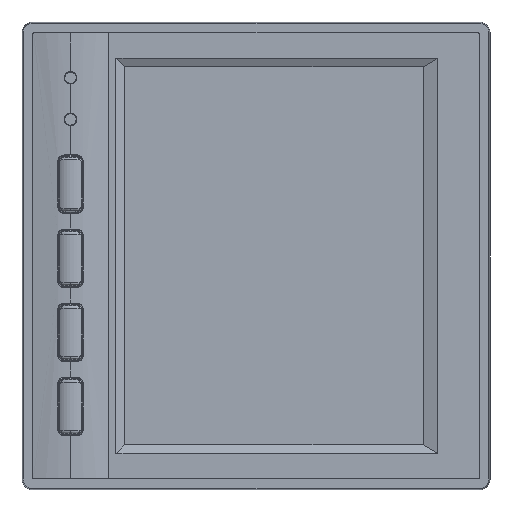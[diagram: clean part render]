
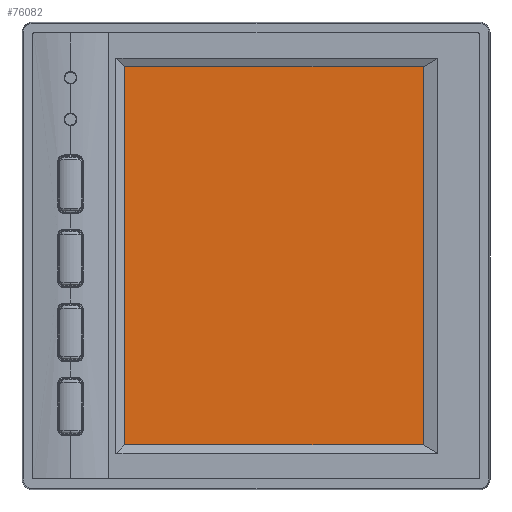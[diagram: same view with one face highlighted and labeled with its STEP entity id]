
A CAD part, top view. The second image highlights one B-rep face of the part: STEP entity #76082.
In plain terms, the highlighted planar face has unit normal (0, 0, 1).
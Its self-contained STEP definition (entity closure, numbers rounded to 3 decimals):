
#5327 = LINE ( 'NONE', #105950, #73641 ) ;
#7286 = CARTESIAN_POINT ( 'NONE',  ( 0., 0., 0.799 ) ) ;
#10023 = ORIENTED_EDGE ( 'NONE', *, *, #107645, .T. ) ;
#13013 = EDGE_CURVE ( 'NONE', #104053, #101705, #52010, .T. ) ;
#13239 = DIRECTION ( 'NONE',  ( 0., -1., 0. ) ) ;
#17834 = CARTESIAN_POINT ( 'NONE',  ( -25.78, -39.001, 0.799 ) ) ;
#23328 = DIRECTION ( 'NONE',  ( -1., 0., 0. ) ) ;
#25983 = DIRECTION ( 'NONE',  ( 0., 0., 1. ) ) ;
#31390 = LINE ( 'NONE', #17834, #59004 ) ;
#35483 = CARTESIAN_POINT ( 'NONE',  ( -25.78, -39.001, 0.799 ) ) ;
#45351 = CARTESIAN_POINT ( 'NONE',  ( -25.78, 39.699, 0.799 ) ) ;
#47400 = ORIENTED_EDGE ( 'NONE', *, *, #93468, .T. ) ;
#51324 = CARTESIAN_POINT ( 'NONE',  ( 36.67, -39.001, 0.799 ) ) ;
#52010 = LINE ( 'NONE', #73129, #98552 ) ;
#59004 = VECTOR ( 'NONE', #82860, 1000. ) ;
#60823 = VERTEX_POINT ( 'NONE', #35483 ) ;
#63031 = ORIENTED_EDGE ( 'NONE', *, *, #13013, .T. ) ;
#63776 = DIRECTION ( 'NONE',  ( 0., 1., 0. ) ) ;
#67750 = ORIENTED_EDGE ( 'NONE', *, *, #67846, .T. ) ;
#67846 = EDGE_CURVE ( 'NONE', #101705, #118706, #104795, .T. ) ;
#72257 = PLANE ( 'NONE',  #113340 ) ;
#73129 = CARTESIAN_POINT ( 'NONE',  ( 36.67, -39.001, 0.799 ) ) ;
#73641 = VECTOR ( 'NONE', #13239, 1000. ) ;
#75783 = CARTESIAN_POINT ( 'NONE',  ( 36.67, 39.699, 0.799 ) ) ;
#76082 = ADVANCED_FACE ( 'NONE', ( #97755 ), #72257, .T. ) ;
#77116 = VECTOR ( 'NONE', #23328, 1000. ) ;
#82860 = DIRECTION ( 'NONE',  ( 1., 0., 0. ) ) ;
#91008 = DIRECTION ( 'NONE',  ( 1., 0., 0. ) ) ;
#93468 = EDGE_CURVE ( 'NONE', #118706, #60823, #5327, .T. ) ;
#97722 = CARTESIAN_POINT ( 'NONE',  ( 36.67, 39.699, 0.799 ) ) ;
#97755 = FACE_OUTER_BOUND ( 'NONE', #115353, .T. ) ;
#98552 = VECTOR ( 'NONE', #63776, 1000. ) ;
#101705 = VERTEX_POINT ( 'NONE', #75783 ) ;
#104053 = VERTEX_POINT ( 'NONE', #51324 ) ;
#104795 = LINE ( 'NONE', #97722, #77116 ) ;
#105950 = CARTESIAN_POINT ( 'NONE',  ( -25.78, 39.699, 0.799 ) ) ;
#107645 = EDGE_CURVE ( 'NONE', #60823, #104053, #31390, .T. ) ;
#113340 = AXIS2_PLACEMENT_3D ( 'NONE', #7286, #25983, #91008 ) ;
#115353 = EDGE_LOOP ( 'NONE', ( #47400, #10023, #63031, #67750 ) ) ;
#118706 = VERTEX_POINT ( 'NONE', #45351 ) ;
